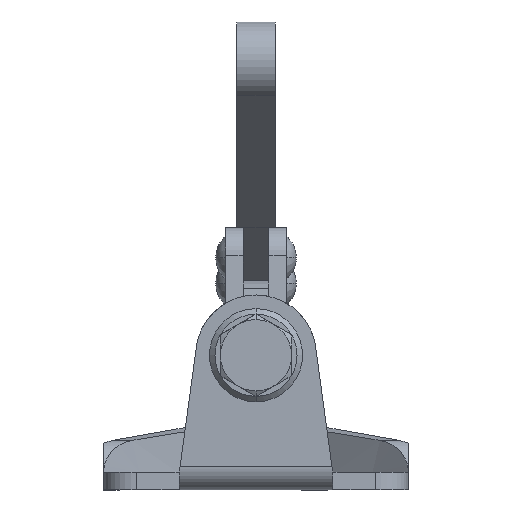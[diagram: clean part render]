
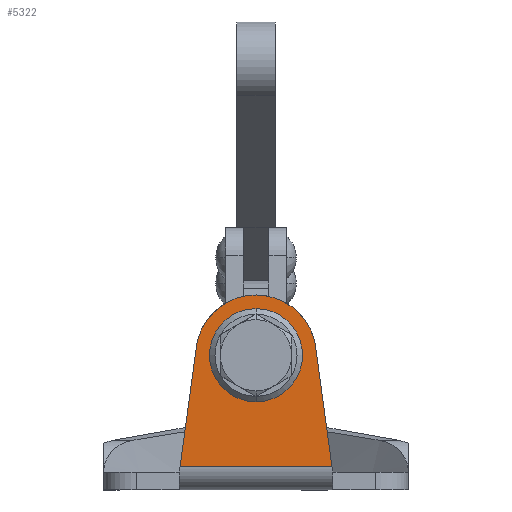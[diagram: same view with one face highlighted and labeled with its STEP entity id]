
A CAD part, left-side view. The second image highlights one B-rep face of the part: STEP entity #5322.
In plain terms, the highlighted planar face has unit normal (-1, 0, 0).
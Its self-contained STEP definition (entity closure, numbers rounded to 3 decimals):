
#5254=CARTESIAN_POINT('Line Origine',(94.99,0.,4.2)) ;
#5258=CARTESIAN_POINT('Cartesian Point',(94.99,13.865,4.2)) ;
#5260=CARTESIAN_POINT('Cartesian Point',(94.99,-13.865,4.2)) ;
#5284=CARTESIAN_POINT('Axis2P3D Location',(94.99,27.8,36.6)) ;
#5289=CARTESIAN_POINT('Line Origine',(94.99,-12.382,15.138)) ;
#5293=CARTESIAN_POINT('Cartesian Point',(94.99,-10.9,26.077)) ;
#5296=CARTESIAN_POINT('Axis2P3D Location',(94.99,0.,24.6)) ;
#5300=CARTESIAN_POINT('Cartesian Point',(94.99,-0.047,35.6)) ;
#5303=CARTESIAN_POINT('Axis2P3D Location',(94.99,0.,24.6)) ;
#5307=CARTESIAN_POINT('Cartesian Point',(94.99,10.9,26.077)) ;
#5310=CARTESIAN_POINT('Line Origine',(94.99,12.382,15.138)) ;
#5255=DIRECTION('Vector Direction',(0.,-1.,0.)) ;
#5285=DIRECTION('Axis2P3D Direction',(-1.,0.,0.)) ;
#5286=DIRECTION('Axis2P3D XDirection',(0.,1.,0.)) ;
#5290=DIRECTION('Vector Direction',(0.,0.134,0.991)) ;
#5297=DIRECTION('Axis2P3D Direction',(-1.,0.,0.)) ;
#5304=DIRECTION('Axis2P3D Direction',(-1.,0.,0.)) ;
#5311=DIRECTION('Vector Direction',(0.,-0.134,0.991)) ;
#5287=AXIS2_PLACEMENT_3D('Plane Axis2P3D',#5284,#5285,#5286) ;
#5298=AXIS2_PLACEMENT_3D('Circle Axis2P3D',#5296,#5297,$) ;
#5305=AXIS2_PLACEMENT_3D('Circle Axis2P3D',#5303,#5304,$) ;
#5316=ORIENTED_EDGE('Oriented Edge',*,*,#5262,.T.) ;
#5317=ORIENTED_EDGE('Oriented Edge',*,*,#5295,.T.) ;
#5318=ORIENTED_EDGE('Oriented Edge',*,*,#5302,.T.) ;
#5319=ORIENTED_EDGE('Oriented Edge',*,*,#5309,.T.) ;
#5320=ORIENTED_EDGE('Oriented Edge',*,*,#5314,.F.) ;
#5256=VECTOR('Line Direction',#5255,1.) ;
#5291=VECTOR('Line Direction',#5290,1.) ;
#5312=VECTOR('Line Direction',#5311,1.) ;
#5322=ADVANCED_FACE('',(#5321),#5288,.T.) ;
#5299=CIRCLE('generated circle',#5298,11.) ;
#5306=CIRCLE('generated circle',#5305,11.) ;
#5262=EDGE_CURVE('',#5259,#5261,#5257,.T.) ;
#5295=EDGE_CURVE('',#5261,#5294,#5292,.T.) ;
#5302=EDGE_CURVE('',#5294,#5301,#5299,.T.) ;
#5309=EDGE_CURVE('',#5301,#5308,#5306,.T.) ;
#5314=EDGE_CURVE('',#5259,#5308,#5313,.T.) ;
#5315=EDGE_LOOP('Oriented Loop',(#5316,#5317,#5318,#5319,#5320)) ;
#5321=FACE_OUTER_BOUND('Face Bound',#5315,.T.) ;
#5257=LINE('Line',#5254,#5256) ;
#5292=LINE('Line',#5289,#5291) ;
#5313=LINE('Line',#5310,#5312) ;
#5288=PLANE('Plane',#5287) ;
#5259=VERTEX_POINT('Vertex Point',#5258) ;
#5261=VERTEX_POINT('Vertex Point',#5260) ;
#5294=VERTEX_POINT('Vertex Point',#5293) ;
#5301=VERTEX_POINT('Vertex Point',#5300) ;
#5308=VERTEX_POINT('Vertex Point',#5307) ;
